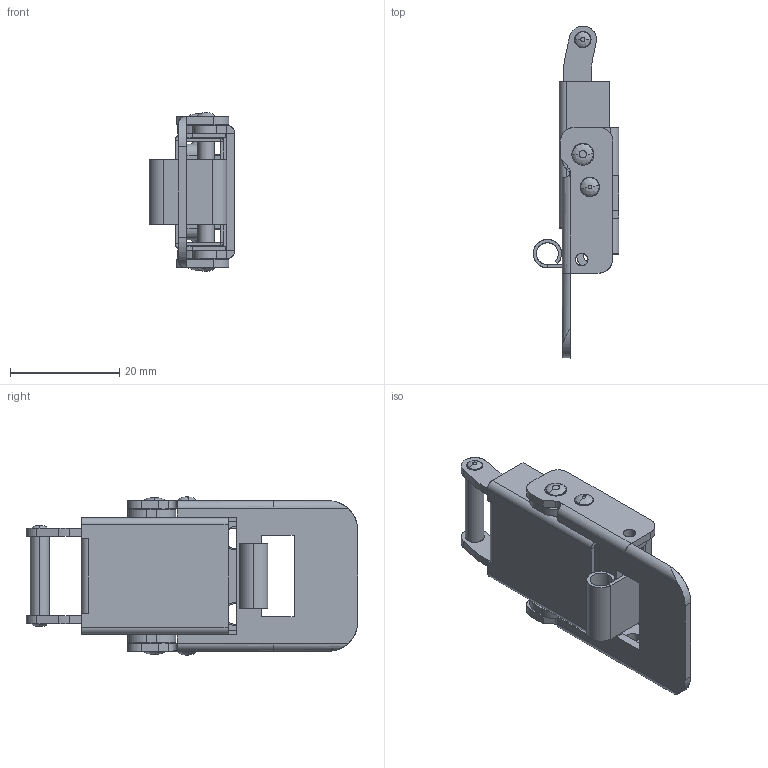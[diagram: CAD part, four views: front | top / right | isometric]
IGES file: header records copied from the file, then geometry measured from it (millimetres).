
Start section: SolidWorks IGES file using analytic representation for surfaces
Global section: file name: C:\Users\cbrechard\Desktop\GP 3012.IGS; native system: SolidWorks 2017; preprocessor: SolidWorks 2017; author: cbrechard; date: 190904.143810; units: millimetre
Bounding box: 15.7 x 60.8 x 29 mm (x, y, z)
Surface area: 11517 mm2 (no closed solid volume)
Topology: 0 solids, 0 shells, 338 faces, 4772 edges, 4771 vertices
Faces by surface type: bspline 221, revolution 117
